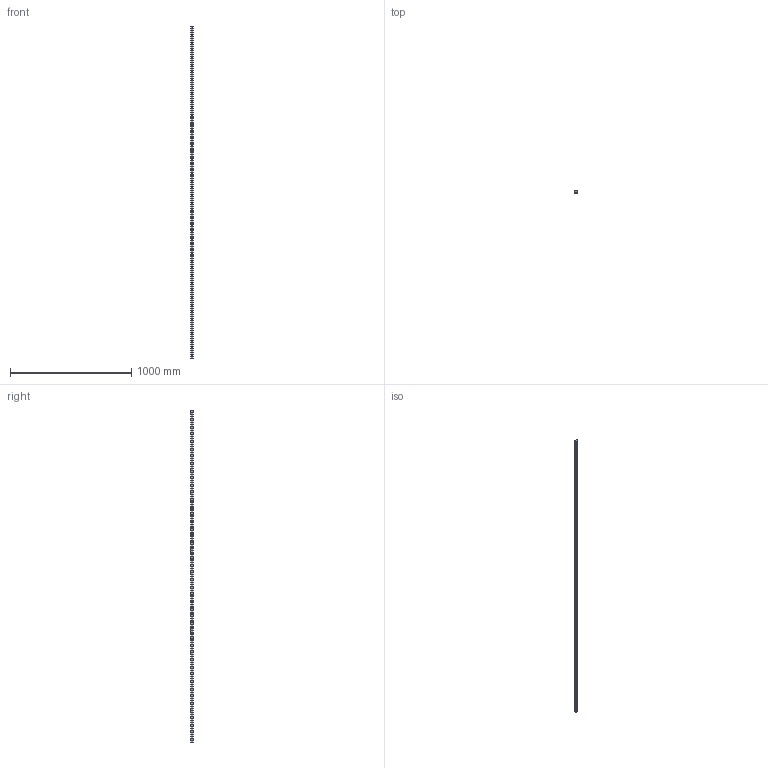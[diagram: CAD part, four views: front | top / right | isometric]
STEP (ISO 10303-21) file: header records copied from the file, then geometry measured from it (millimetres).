
FILE_DESCRIPTION (( 'STEP AP203' ), '1' );
FILE_NAME ('L1016.BL25-2740.step', '2019-06-12T12:12:24', ( '' ), ( '' ), 'SwSTEP 2.0', 'SolidWorks 2017', '' );
FILE_SCHEMA (( 'CONFIG_CONTROL_DESIGN' ));
Length unit declared in the file: millimetre
Products named in the file (1): L1016.BL25-2740
Bounding box: 23 x 19.2 x 2740 mm (x, y, z)
Volume: 1009697.3 mm3; surface area: 259316.9 mm2
Topology: 1 solids, 1 shells, 256 faces, 624 edges, 416 vertices
Faces by surface type: cylinder 188, plane 68
Entity records: 7985 total; most frequent: DIRECTION 1514, CARTESIAN_POINT 1297, ORIENTED_EDGE 1248, AXIS2_PLACEMENT_3D 633, EDGE_CURVE 624, VERTEX_POINT 416, EDGE_LOOP 394, CIRCLE 376
